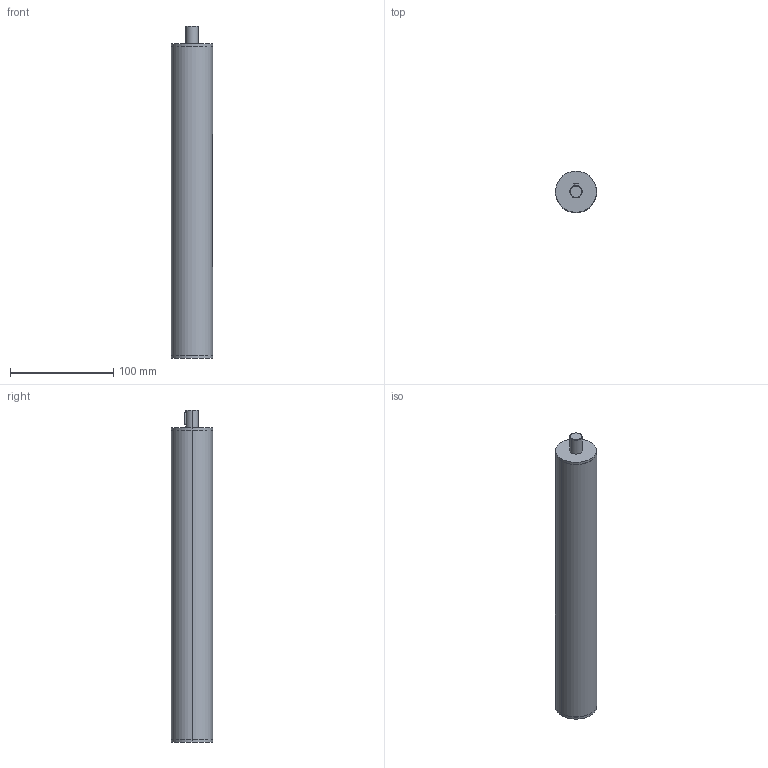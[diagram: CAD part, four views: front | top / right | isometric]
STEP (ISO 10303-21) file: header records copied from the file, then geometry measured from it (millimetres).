
FILE_DESCRIPTION (( 'STEP AP214' ), '1' );
FILE_NAME ('291-40-70-R1-SCR.step', '2023-08-30T05:21:07', ( '' ), ( '' ), 'SwSTEP 2.0', 'SolidWorks 2022', '' );
FILE_SCHEMA (( 'AUTOMOTIVE_DESIGN' ));
Length unit declared in the file: millimetre
Products named in the file (3): WB2910 mutter^WBVES_Tr20-M5; WB2910 Rund^WBVES_40-70-1; 291-40-70-R1-SCR
Assembly tree (2 placements, depth 2):
  291-40-70-R1-SCR
    WB2910 mutter^WBVES_Tr20-M5
    WB2910 Rund^WBVES_40-70-1
Bounding box: 40 x 40 x 322 mm (x, y, z)
Volume: 205273.1 mm3; surface area: 105605.6 mm2
Topology: 2 solids, 2 shells, 48 faces, 112 edges, 70 vertices
Faces by surface type: cylinder 25, plane 17, cone 6
Entity records: 1847 total; most frequent: CARTESIAN_POINT 426, DIRECTION 246, ORIENTED_EDGE 216, EDGE_CURVE 108, AXIS2_PLACEMENT_3D 96, VERTEX_POINT 70, EDGE_LOOP 58, VECTOR 54
